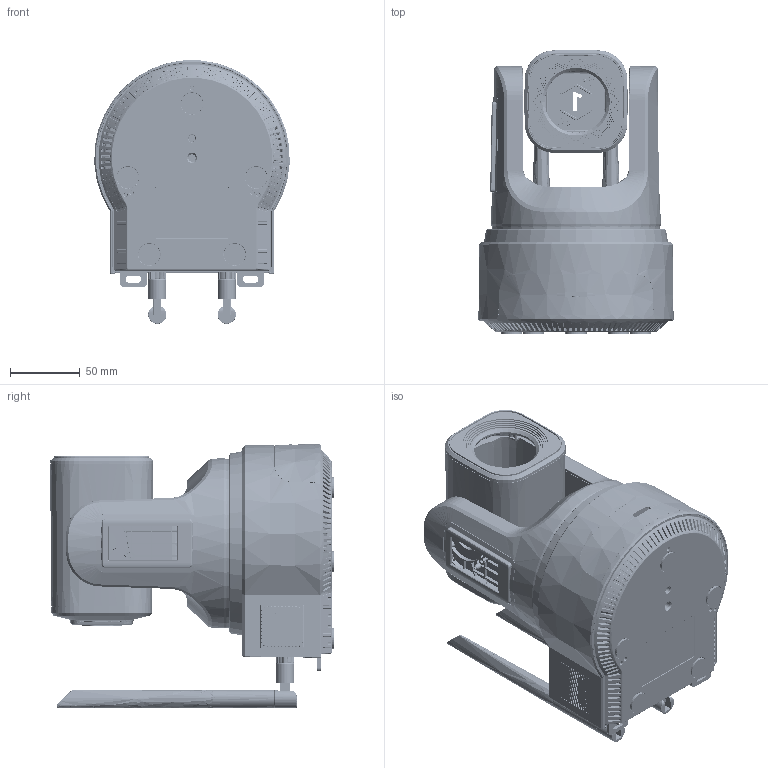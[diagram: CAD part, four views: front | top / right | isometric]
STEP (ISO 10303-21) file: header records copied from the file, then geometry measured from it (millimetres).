
FILE_DESCRIPTION(/* description */ (''),/* implementation_level */ '2;1');
FILE_NAME(/* name */ 'X4-Ultra-3D.step',/* time_stamp */ '2024-07-19T11:42:05+10:00',/* author */ (''),/* organization */ (''),/* preprocessor_version */ 'ST-DEVELOPER v20',/* originating_system */ 'Autodesk Translation Framework v13.14.0.145',/* authorisation */ '');
FILE_SCHEMA (('AUTOMOTIVE_DESIGN { 1 0 10303 214 3 1 1 }'));
Products named in the file (25): X4 Ultra; X4 Top; x4 (7); VX60AWB-003_A_0552500110051; VX60AWB-002_A_0552500110049; VX60AWB-009_A_0552500110062; VX60AWB-001_A_0552500110048; VX60AWB-004_A_0552500110053; BACK-TALLY_ASM; REAR_RUBBER_NUMBER-1; x4 (8); x4 (9); x4-display; X4 bottom; x4; x4 (1); x4 (2); 00_2_ASM; 00_2_1; 00_2_2; x4 (3); JIAODIAN_2; x4 (4); x4 (5); x4 (6)
Assembly tree (30 placements, depth 5):
  X4 Ultra
    X4 Top
      x4 (7)
        VX60AWB-003_A_0552500110051
        VX60AWB-002_A_0552500110049
        VX60AWB-009_A_0552500110062
        VX60AWB-001_A_0552500110048
        VX60AWB-004_A_0552500110053
        BACK-TALLY_ASM
          REAR_RUBBER_NUMBER-1
      x4 (8)
      x4 (9)
      x4-display
    X4 bottom
      x4
      x4 (1)
      x4 (2)
        00_2_ASM  x2
          00_2_1
          00_2_2
      x4 (3)
        JIAODIAN_2  x5
      x4 (4)
      x4 (5)
      x4 (6)  x2
Bounding box: 139.96 x 203.23 x 188.87 mm (x, y, z)
Volume: 420843.4 mm3; surface area: 420257.1 mm2
Topology: 24 solids, 24 shells, 11362 faces, 30819 edges, 19604 vertices
Faces by surface type: cylinder 3734, plane 3380, bspline 2498, cone 1146, torus 542, sphere 62
Full cylindrical faces by diameter (mm): 0.5 x1492, 1.5 x1, 1.7 x4, 2 x6, 2.1 x12, 2.2 x1, 2.5 x4, 3 x12, 3.2 x7, 5.3 x1, 5.4 x2, 7 x2, 8.4 x1, 10 x1, 13 x5, 15 x2, 15.2 x5, 15.7 x4, 16 x1, 26 x1
Entity records: 552457 total; most frequent: CARTESIAN_POINT 303323, ORIENTED_EDGE 55766, DIRECTION 46394, EDGE_CURVE 27883, VERTEX_POINT 17674, AXIS2_PLACEMENT_3D 17344, EDGE_LOOP 12325, LINE 11706
